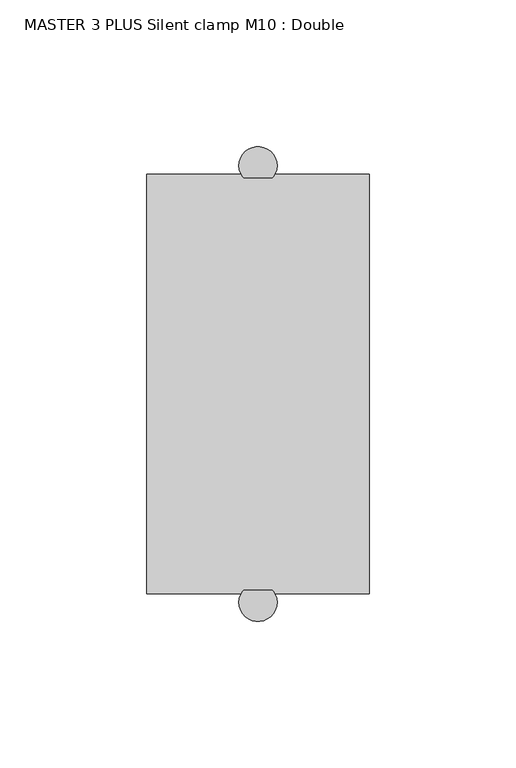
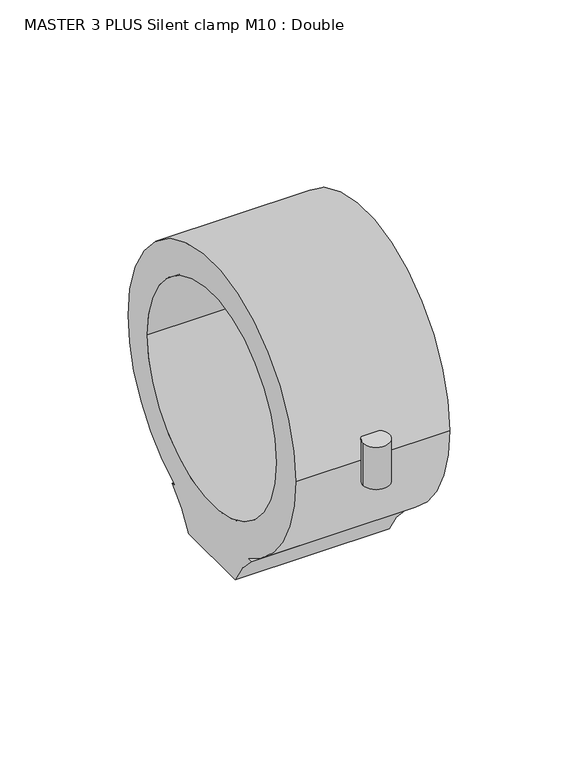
"""IFC4 building model written with IfcOpenShell, lengths in millimetres: valve geometry, MASTER 3 PLUS Silent clamp M10 : Double."""

from ifc_helpers import new_model, si_unit, point, frame, frame_2d, origin, origin_2d, place, context, project, spatial, polyline, circle_curve, trimmed, segment, composite_curve, outline, extrude, source, transform, mapped, element, save


def master_3_plus_silent_clamp_m10_double_2167c58a(model_context):
    return source(origin(), model_context, "Body", "SweptSolid", [
        extrude(outline(composite_curve([segment(trimmed(circle_curve(frame_2d((38.0, 74.5)), 6.5), [point((31.5, 74.5))], [point((44.5, 74.5))], False, "CARTESIAN"), True, "CONTINUOUS"), segment(trimmed(circle_curve(frame_2d((38.0, 74.5)), 6.5), [point((44.5, 74.5))], [point((31.5, 74.5))], False, "CARTESIAN"), True, "CONTINUOUS")], self_intersect=False)), frame((0.0, 0.0, -11.0), z_axis=(0.0, 0.0, 1.0), x_axis=(1.0, 0.0, 0.0)), (0.0, 0.0, 1.0), 22.0),
        extrude(outline(composite_curve([segment(trimmed(circle_curve(frame_2d((38.0, -74.5)), 6.5), [point((31.5, -74.5))], [point((44.5, -74.5))], False, "CARTESIAN"), True, "CONTINUOUS"), segment(trimmed(circle_curve(frame_2d((38.0, -74.5)), 6.5), [point((44.5, -74.5))], [point((31.5, -74.5))], False, "CARTESIAN"), True, "CONTINUOUS")], self_intersect=False)), frame((0.0, 0.0, -11.0), z_axis=(0.0, 0.0, 1.0), x_axis=(1.0, 0.0, 0.0)), (0.0, 0.0, 1.0), 22.0),
        extrude(outline(composite_curve([segment(trimmed(circle_curve(origin_2d(), 71.5), [point((-71.5, 0.0))], [point((71.5, 0.0))], False, "CARTESIAN"), True, "CONTINUOUS"), segment(trimmed(circle_curve(origin_2d(), 71.5), [point((71.5, 0.0))], [point((30.8544972, -64.5))], False, "CARTESIAN"), True, "CONTINUOUS"), segment(polyline([(30.8544972, -64.5), (33.7273532, -64.5)]), True, "CONTINUOUS"), segment(trimmed(circle_curve(frame_2d((73.3561953, -109.5505813)), 60.0), [point((33.7273532, -64.5))], [point((19.8, -82.5))], True, "CARTESIAN"), True, "CONTINUOUS"), segment(polyline([(19.8, -82.5), (-19.8, -82.5)]), True, "CONTINUOUS"), segment(trimmed(circle_curve(frame_2d((-73.3561953, -109.5505813)), 60.0), [point((-19.8, -82.5))], [point((-33.7273532, -64.5))], True, "CARTESIAN"), True, "CONTINUOUS"), segment(polyline([(-33.7273532, -64.5), (-30.8544972, -64.5)]), True, "CONTINUOUS"), segment(trimmed(circle_curve(origin_2d(), 71.5), [point((-30.8544972, -64.5))], [point((-71.5, 0.0))], False, "CARTESIAN"), True, "CONTINUOUS")], self_intersect=False), holes=[composite_curve([segment(trimmed(circle_curve(origin_2d(), 55.0), [point((-55.0, 0.0))], [point((55.0, 0.0))], True, "CARTESIAN"), True, "CONTINUOUS"), segment(trimmed(circle_curve(origin_2d(), 55.0), [point((55.0, 0.0))], [point((-55.0, 0.0))], True, "CARTESIAN"), True, "CONTINUOUS")], self_intersect=False)]), frame((0.0, 0.0, 0.0), z_axis=(1.0, 0.0, 0.0), x_axis=(0.0, 1.0, 0.0)), (0.0, 0.0, 1.0), 76.0),
    ])


if __name__ == "__main__":
    model = new_model("IFC4")
    model_context = context("Model", 3, world=origin())
    ifc_project = project(units=[si_unit("LENGTHUNIT", "METRE", prefix="MILLI")], contexts=[model_context])
    site = spatial("IfcSite", under=ifc_project)
    building = spatial("IfcBuilding", under=site)
    placement = place(None, origin())
    master_3_plus_silent_clamp_m10_double_shape = master_3_plus_silent_clamp_m10_double_2167c58a(model_context)
    element("IfcValve", 1, ObjectType="MASTER 3 PLUS Silent clamp M10 : Double", at=placement, inside=building, context=model_context, shape_type="MappedRepresentation", body=[
        mapped(master_3_plus_silent_clamp_m10_double_shape, transform((0.0, 0.0, 0.0), x_axis=(1.0, 0.0, 0.0), y_axis=(0.0, 1.0, 0.0), z_axis=(0.0, 0.0, 1.0))),
    ])
    save(model, "model.ifc")
